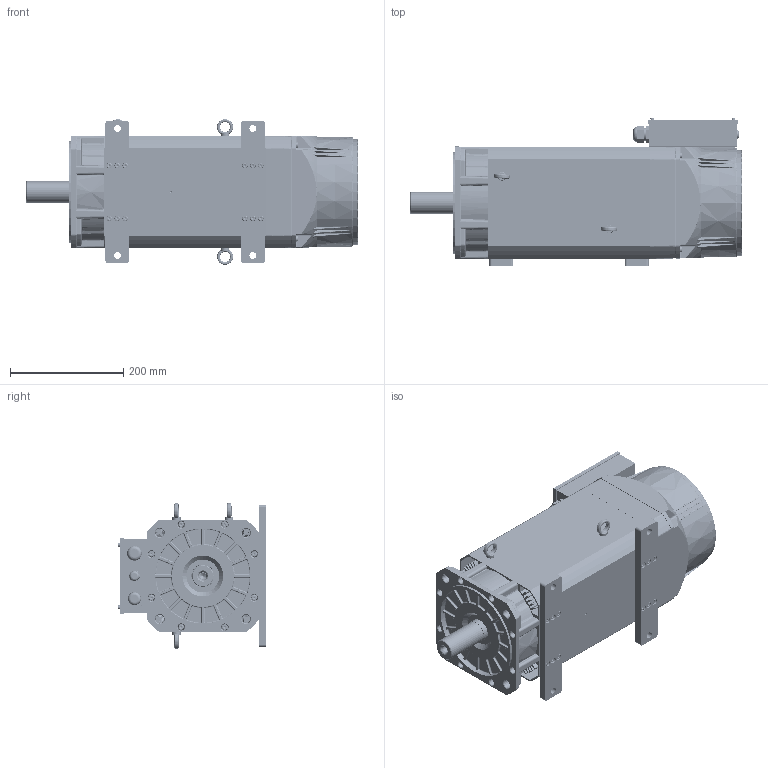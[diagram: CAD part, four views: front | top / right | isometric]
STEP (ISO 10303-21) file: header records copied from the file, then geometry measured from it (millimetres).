
FILE_DESCRIPTION (( 'STEP AP203' ), '1' );
FILE_NAME ('200H-B35-38J俋倛芞.STEP', '2021-01-12T04:37:52', ( '' ), ( '' ), 'SwSTEP 2.0', 'SolidWorks 2016', '' );
FILE_SCHEMA (( 'CONFIG_CONTROL_DESIGN' ));
Length unit declared in the file: millimetre
Products named in the file (57): 200ヶ裔-171102; 180-200諉盄碟躇猾菜; 200諉盄碟裔躇猾菜; cross recessed pan head screws gb_GB_CROSS_SCREWS_TYPE1 M4X10-10  H type-N; cross recessed small pan head screws gb_GB_CROSS_SCREWS_TYPE3 M5X10-10-N; hex lobular socket head cap screws-4.8 gb_GB_HEXAGON_TYPE21 M6X30-30-N; plain washers-n series-grade a gb_GB_FASTENER_WASHER_PWNA 5; 200粣創揤裔; socket head cap screw_am_B18.3.1M - 5 x 0.8 x 35 Hex SHCS -- 22NHX; 晤鎢ん啣; M8X12裂遠; 200菁褐; spring lock washers--normal type gb_GB_FASTENER_WASHER_SW 3; 200滅鳥欶; 200呿蹋瑞欶; 瑞儂瑞欶窒璃; 200粣3.7kw; UVW隅砱梓ワ; 200S翉臏蛌赽; cross recessed pan head screws gb_GB_CROSS_SCREWS_TYPE1 M4X5-5  H type-N; hex lobular socket head cap screws-4.8 gb_GB_HEXAGON_TYPE21 M6X25-25-N; cross recessed pan head screws gb_GB_CROSS_SCREWS_TYPE1 M3X12-12  H type-N; deep groove ball bearings gb_Rolling bearings 6306 GB 276-94; 200H-B35-38J俋倛芞; hex socket set screws with cone point gb_GB_FASTENER_SCREWS_HSCP M6X6-N; 嫖萇晤鎢ん; plain washers-n series-grade a gb_GB_FASTENER_WASHER_PWNA 4; 200H儂褲1; spring lock washers--normal type gb_GB_FASTENER_WASHER_SW 6; 200諉盄翐; spring lock washers--normal type gb_GB_FASTENER_WASHER_SW 5; M24X1.5蹟杶; M16X1.5蹟杶; 200S蛌赽窒璃; 200諉盄碟窒璃; flat washer regular_am_B18.22M - Plain washer, 4 mm, regular; hex lobular socket head cap screws-8.8 gb_GB_HEXAGON_TYPE22 M6X16-N; 200S隅赽軞傖; deep groove ball bearings gb_Rolling bearings 6308 GB 276-94; 200S隅赽諶え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
Assembly tree (153 placements, depth 3):
  200H-B35-38J俋倛芞
    200H儂褲1
    200S隅赽窒璃
      200S隅赽軞傖
      200S隅赽諶え  x6
    200ヶ裔-171102
    hex lobular socket head cap screws-4.8 gb_GB_HEXAGON_TYPE21 M6X30-30-N  x8
    spring lock washers--normal type gb_GB_FASTENER_WASHER_SW 6  x28
    200菁褐  x2
    hex lobular socket head cap screws-4.8 gb_GB_HEXAGON_TYPE21 M6X25-25-N  x12
    200S蛌赽窒璃
      200S翉臏蛌赽
    deep groove ball bearings gb_Rolling bearings 6308 GB 276-94
    deep groove ball bearings gb_Rolling bearings 6306 GB 276-94
    circlips for shaft--type b gb_GB_CONNECTING_PIECE_RINGS_CSB 30
    200粣創揤裔
    17-186 蚗艙綴裔200
    spring lock washers--normal type gb_GB_FASTENER_WASHER_SW 5  x3
    socket head cap screw_am_B18.3.1M - 5 x 0.8 x 35 Hex SHCS -- 22NHX  x3
    嫖萇晤鎢ん
    flat washer regular_am_B18.22M - Plain washer, 4 mm, regular
    spring lock washers--normal type gb_GB_FASTENER_WASHER_SW 4
    socket head cap screw_am_B18.3.1M - 4 x 0.7 x 20 Hex SHCS -- 20NHX
    spring lock washers--normal type gb_GB_FASTENER_WASHER_SW 3  x2
    socket head cap screw_am_B18.3.1M - 3 x 0.5 x 8 Hex SHCS -- 8NHX  x2
    200滅鳥欶
    pan cross head_am_B18.6.7M - M4 x 0.7 x 8 Type I Cross Recessed PHMS --8N  x4
    hexagon socket head cap screws gb_GB_FASTENER_SCREWS_HSHCS M6X30-N  x8
    瑞儂瑞欶窒璃
      200呿蹋瑞欶
      200风机（煜微180FZL-7）
      cross recessed pan head screws gb_GB_CROSS_SCREWS_TYPE1 M4X10-10  H type-N  x4
    hex lobular socket head cap screws-8.8 gb_GB_HEXAGON_TYPE22 M6X16-N  x4
    180-200諉盄碟躇猾菜
    200諉盄碟窒璃
      200瑤脣ヶ堤盄諉盄碟
      M24X1.5蹟杶
      200风机过线圈
      M20X1.5蹟杶
      M16X1.5蹟杶
      200諉盄翐
      晤鎢ん橈埽翐  x4
      晤鎢ん啣
      200諉盄碟裔躇猾菜
      200諉盄碟裔
      UVW隅砱梓ワ
      晤鎢ん隅砱梓ワ
      cross recessed cheese head screws gb_GB_CROSS_SCREWS_TYPE2 M4X10-10  H type-N  x4
      spring lock washers--normal type gb_GB_FASTENER_WASHER_SW 4  x4
      plain washers-n series-grade a gb_GB_FASTENER_WASHER_PWNA 4  x4
      cross recessed pan head screws gb_GB_CROSS_SCREWS_TYPE1 M3X12-12  H type-N  x4
      cross recessed pan head screws gb_GB_CROSS_SCREWS_TYPE1 M4X5-5  H type-N  x2
    M8X12裂遠  x3
    cross recessed pan head screws gb_GB_CROSS_SCREWS_TYPE1 M5X10-10  H type-N  x2
    plain washers-n series-grade a gb_GB_FASTENER_WASHER_PWNA 5  x2
    cross recessed small pan head screws gb_GB_CROSS_SCREWS_TYPE3 M5X10-10-N  x2
    hex socket set screws with cone point gb_GB_FASTENER_SCREWS_HSCP M6X6-N  x3
    200粣3.7kw
Bounding box: 585.5 x 262.25 x 257 mm (x, y, z)
Volume: 8361063.9 mm3; surface area: 2403450 mm2
Topology: 149 solids, 149 shells, 8124 faces, 20419 edges, 12522 vertices
Faces by surface type: plane 2529, bspline 2146, cylinder 2022, cone 981, torus 352, sphere 94
Entity records: 271132 total; most frequent: CARTESIAN_POINT 116057, ORIENTED_EDGE 33144, DIRECTION 27792, EDGE_CURVE 16572, AXIS2_PLACEMENT_3D 10967, VERTEX_POINT 10205, EDGE_LOOP 7125, ADVANCED_FACE 6599
